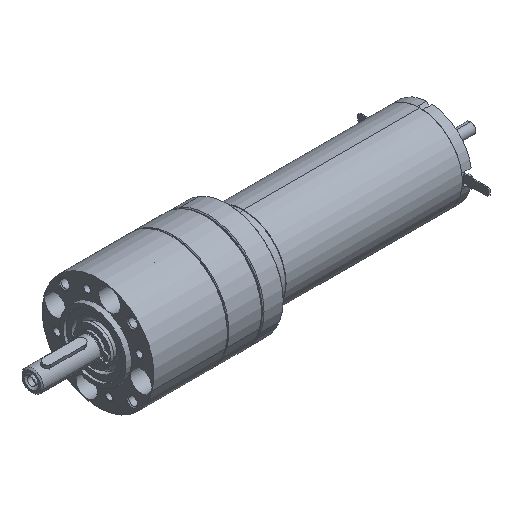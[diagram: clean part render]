
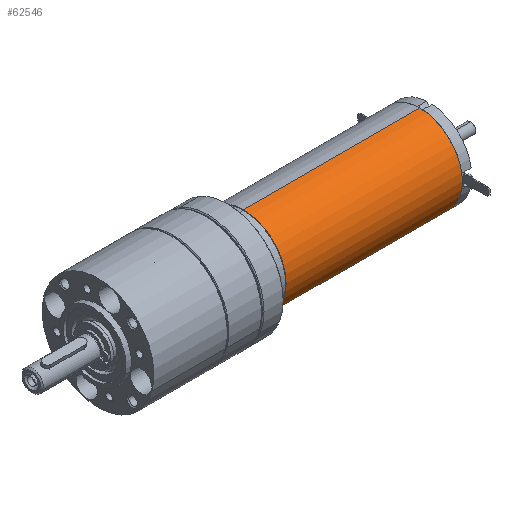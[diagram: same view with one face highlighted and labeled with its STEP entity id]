
A CAD part, isometric view. The second image highlights one B-rep face of the part: STEP entity #62546.
In plain terms, the highlighted cylindrical face has radius 16 mm (diameter 32 mm), a partial arc.
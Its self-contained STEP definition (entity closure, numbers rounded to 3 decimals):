
#296 = DIRECTION ( 'NONE',  ( 0., 0., 1. ) ) ;
#360 = FACE_OUTER_BOUND ( 'NONE', #35531, .T. ) ;
#1978 = VERTEX_POINT ( 'NONE', #14220 ) ;
#4435 = ORIENTED_EDGE ( 'NONE', *, *, #26678, .T. ) ;
#11066 = VERTEX_POINT ( 'NONE', #27214 ) ;
#14220 = CARTESIAN_POINT ( 'NONE',  ( 5.8, 0., -16. ) ) ;
#14982 = CARTESIAN_POINT ( 'NONE',  ( 5.8, 0., 0. ) ) ;
#15081 = DIRECTION ( 'NONE',  ( -1., 0., 0. ) ) ;
#16411 = CARTESIAN_POINT ( 'NONE',  ( 72., 0., -16. ) ) ;
#20707 = AXIS2_PLACEMENT_3D ( 'NONE', #76115, #38267, #296 ) ;
#20741 = VECTOR ( 'NONE', #15081, 1000. ) ;
#21343 = DIRECTION ( 'NONE',  ( 0., 0., 1. ) ) ;
#23182 = ORIENTED_EDGE ( 'NONE', *, *, #67879, .F. ) ;
#23504 = CIRCLE ( 'NONE', #55163, 16. ) ;
#24348 = DIRECTION ( 'NONE',  ( -1., 0., 0. ) ) ;
#26197 = EDGE_CURVE ( 'NONE', #11066, #28130, #56420, .T. ) ;
#26678 = EDGE_CURVE ( 'NONE', #28130, #1978, #23504, .T. ) ;
#27214 = CARTESIAN_POINT ( 'NONE',  ( 72., 0., 16. ) ) ;
#27519 = CARTESIAN_POINT ( 'NONE',  ( 38.9, 0., 16. ) ) ;
#28130 = VERTEX_POINT ( 'NONE', #75535 ) ;
#28984 = EDGE_CURVE ( 'NONE', #68854, #11066, #47718, .T. ) ;
#31349 = DIRECTION ( 'NONE',  ( -1., 0., 0. ) ) ;
#32559 = ORIENTED_EDGE ( 'NONE', *, *, #28984, .T. ) ;
#35531 = EDGE_LOOP ( 'NONE', ( #23182, #32559, #66311, #4435 ) ) ;
#37068 = CARTESIAN_POINT ( 'NONE',  ( 38.9, 0., -16. ) ) ;
#38267 = DIRECTION ( 'NONE',  ( -1., 0., 0. ) ) ;
#44032 = LINE ( 'NONE', #37068, #58905 ) ;
#47718 = CIRCLE ( 'NONE', #20707, 16. ) ;
#55163 = AXIS2_PLACEMENT_3D ( 'NONE', #14982, #59267, #21343 ) ;
#56420 = LINE ( 'NONE', #27519, #20741 ) ;
#57848 = CYLINDRICAL_SURFACE ( 'NONE', #70067, 16. ) ;
#58905 = VECTOR ( 'NONE', #24348, 1000. ) ;
#59267 = DIRECTION ( 'NONE',  ( 1., 0., 0. ) ) ;
#62546 = ADVANCED_FACE ( 'NONE', ( #360 ), #57848, .T. ) ;
#66311 = ORIENTED_EDGE ( 'NONE', *, *, #26197, .T. ) ;
#67879 = EDGE_CURVE ( 'NONE', #68854, #1978, #44032, .T. ) ;
#68854 = VERTEX_POINT ( 'NONE', #16411 ) ;
#70067 = AXIS2_PLACEMENT_3D ( 'NONE', #75851, #31349, #76149 ) ;
#75535 = CARTESIAN_POINT ( 'NONE',  ( 5.8, 0., 16. ) ) ;
#75851 = CARTESIAN_POINT ( 'NONE',  ( 38.9, 0., 0. ) ) ;
#76115 = CARTESIAN_POINT ( 'NONE',  ( 72., 0., 0. ) ) ;
#76149 = DIRECTION ( 'NONE',  ( 0., 0., 1. ) ) ;
